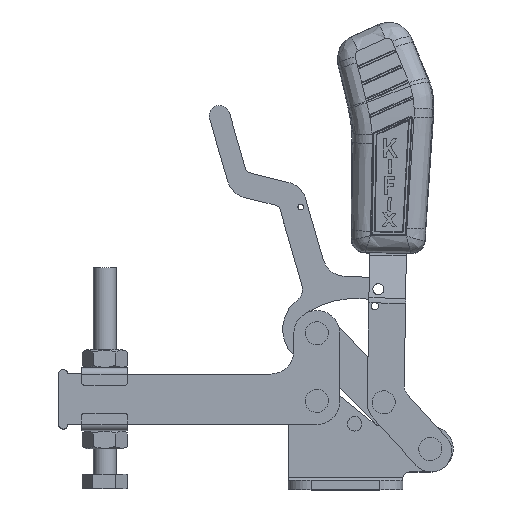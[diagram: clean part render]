
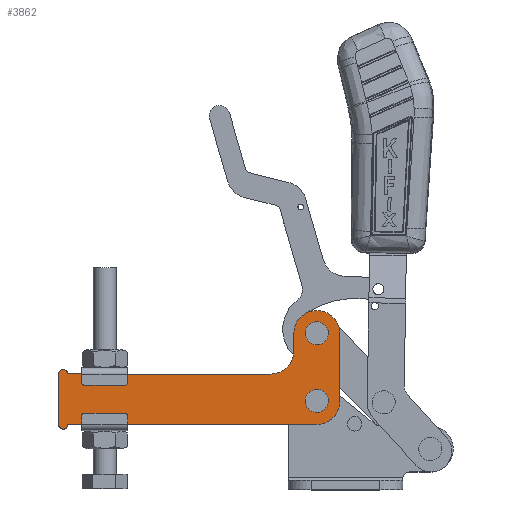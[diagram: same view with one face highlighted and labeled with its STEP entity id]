
A CAD part, top view. The second image highlights one B-rep face of the part: STEP entity #3862.
In plain terms, the highlighted planar face has unit normal (0, 0, 1).
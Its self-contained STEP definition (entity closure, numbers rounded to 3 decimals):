
#39 = CARTESIAN_POINT ( 'NONE',  ( 66., 28.7, 0. ) ) ;
#252 = ORIENTED_EDGE ( 'NONE', *, *, #21528, .F. ) ;
#426 = VERTEX_POINT ( 'NONE', #39 ) ;
#482 = DIRECTION ( 'NONE',  ( 0., 0., 1. ) ) ;
#818 = EDGE_CURVE ( 'NONE', #1227, #3880, #16589, .T. ) ;
#1037 = VERTEX_POINT ( 'NONE', #12869 ) ;
#1122 = CARTESIAN_POINT ( 'NONE',  ( 80., 28.7, 0. ) ) ;
#1227 = VERTEX_POINT ( 'NONE', #1122 ) ;
#1527 = CARTESIAN_POINT ( 'NONE',  ( -40.5, -11., 0. ) ) ;
#1542 = EDGE_CURVE ( 'NONE', #23721, #8501, #13813, .T. ) ;
#1905 = AXIS2_PLACEMENT_3D ( 'NONE', #23539, #11756, #25515 ) ;
#2504 = CARTESIAN_POINT ( 'NONE',  ( 50., 11., 0. ) ) ;
#2710 = VECTOR ( 'NONE', #9010, 1000. ) ;
#3114 = ORIENTED_EDGE ( 'NONE', *, *, #5938, .T. ) ;
#3231 = FACE_OUTER_BOUND ( 'NONE', #14770, .T. ) ;
#3372 = CARTESIAN_POINT ( 'NONE',  ( 70., -1., 0. ) ) ;
#3516 = DIRECTION ( 'NONE',  ( 1., 0., 0. ) ) ;
#3862 = ADVANCED_FACE ( 'NONE', ( #3884, #23628, #3231 ), #7011, .F. ) ;
#3880 = VERTEX_POINT ( 'NONE', #14926 ) ;
#3884 = FACE_BOUND ( 'NONE', #21962, .T. ) ;
#4378 = ORIENTED_EDGE ( 'NONE', *, *, #13256, .T. ) ;
#4645 = DIRECTION ( 'NONE',  ( 0., 0., -1. ) ) ;
#5122 = ORIENTED_EDGE ( 'NONE', *, *, #20548, .T. ) ;
#5140 = ORIENTED_EDGE ( 'NONE', *, *, #818, .T. ) ;
#5188 = AXIS2_PLACEMENT_3D ( 'NONE', #22780, #11004, #24783 ) ;
#5271 = ORIENTED_EDGE ( 'NONE', *, *, #7123, .T. ) ;
#5406 = DIRECTION ( 'NONE',  ( 1., 0., 0. ) ) ;
#5828 = CARTESIAN_POINT ( 'NONE',  ( 74., 28.7, 0. ) ) ;
#5938 = EDGE_CURVE ( 'NONE', #1037, #22275, #15533, .T. ) ;
#6425 = EDGE_CURVE ( 'NONE', #8501, #1037, #23214, .T. ) ;
#6542 = CARTESIAN_POINT ( 'NONE',  ( 66., -0.7, 0. ) ) ;
#7011 = PLANE ( 'NONE',  #12828 ) ;
#7033 = CARTESIAN_POINT ( 'NONE',  ( 80., -1., 0. ) ) ;
#7123 = EDGE_CURVE ( 'NONE', #13826, #23721, #9341, .T. ) ;
#7241 = CARTESIAN_POINT ( 'NONE',  ( 70., -11., 0. ) ) ;
#7389 = VERTEX_POINT ( 'NONE', #7241 ) ;
#7445 = AXIS2_PLACEMENT_3D ( 'NONE', #16452, #4645, #18451 ) ;
#7641 = CARTESIAN_POINT ( 'NONE',  ( -40.5, 11., 0. ) ) ;
#7967 = VERTEX_POINT ( 'NONE', #6542 ) ;
#8501 = VERTEX_POINT ( 'NONE', #14570 ) ;
#8646 = CIRCLE ( 'NONE', #15071, 10. ) ;
#8755 = ORIENTED_EDGE ( 'NONE', *, *, #22989, .F. ) ;
#9010 = DIRECTION ( 'NONE',  ( 0., 1., 0. ) ) ;
#9120 = CARTESIAN_POINT ( 'NONE',  ( 70., 28.7, 0. ) ) ;
#9168 = ORIENTED_EDGE ( 'NONE', *, *, #16842, .T. ) ;
#9273 = VECTOR ( 'NONE', #19562, 1000. ) ;
#9341 = CIRCLE ( 'NONE', #7445, 10. ) ;
#9454 = EDGE_CURVE ( 'NONE', #7389, #17387, #8646, .T. ) ;
#9621 = DIRECTION ( 'NONE',  ( -1., 0., 0. ) ) ;
#10111 = VERTEX_POINT ( 'NONE', #10825 ) ;
#10248 = VERTEX_POINT ( 'NONE', #13211 ) ;
#10405 = VERTEX_POINT ( 'NONE', #5828 ) ;
#10789 = ORIENTED_EDGE ( 'NONE', *, *, #1542, .T. ) ;
#10825 = CARTESIAN_POINT ( 'NONE',  ( 74., -0.7, 0. ) ) ;
#10983 = DIRECTION ( 'NONE',  ( 0., 0., -1. ) ) ;
#11004 = DIRECTION ( 'NONE',  ( 0., 0., 1. ) ) ;
#11110 = DIRECTION ( 'NONE',  ( 1., 0., 0. ) ) ;
#11321 = CARTESIAN_POINT ( 'NONE',  ( 4., -11., 0. ) ) ;
#11622 = AXIS2_PLACEMENT_3D ( 'NONE', #1527, #15336, #3516 ) ;
#11679 = VECTOR ( 'NONE', #13284, 1000. ) ;
#11756 = DIRECTION ( 'NONE',  ( 0., 0., 1. ) ) ;
#12329 = CARTESIAN_POINT ( 'NONE',  ( 70., -0.7, 0. ) ) ;
#12446 = DIRECTION ( 'NONE',  ( -1., 0., 0. ) ) ;
#12828 = AXIS2_PLACEMENT_3D ( 'NONE', #20709, #10983, #24758 ) ;
#12869 = CARTESIAN_POINT ( 'NONE',  ( -42.5, 11., 0. ) ) ;
#13211 = CARTESIAN_POINT ( 'NONE',  ( -38.5, -11., 0. ) ) ;
#13256 = EDGE_CURVE ( 'NONE', #10248, #7389, #20884, .T. ) ;
#13284 = DIRECTION ( 'NONE',  ( 1., 0., 0. ) ) ;
#13813 = LINE ( 'NONE', #2504, #23704 ) ;
#13826 = VERTEX_POINT ( 'NONE', #15404 ) ;
#14056 = ORIENTED_EDGE ( 'NONE', *, *, #9454, .T. ) ;
#14173 = AXIS2_PLACEMENT_3D ( 'NONE', #7641, #21434, #9621 ) ;
#14285 = DIRECTION ( 'NONE',  ( 1., 0., 0. ) ) ;
#14570 = CARTESIAN_POINT ( 'NONE',  ( -38.5, 11., 0. ) ) ;
#14731 = EDGE_LOOP ( 'NONE', ( #19150, #8755 ) ) ;
#14743 = CARTESIAN_POINT ( 'NONE',  ( 70., 28.7, 0. ) ) ;
#14770 = EDGE_LOOP ( 'NONE', ( #21690, #3114, #9168, #4378, #14056, #5122, #5140, #15524, #5271, #10789 ) ) ;
#14926 = CARTESIAN_POINT ( 'NONE',  ( 60., 28.7, 0. ) ) ;
#14929 = DIRECTION ( 'NONE',  ( 0., 0., 1. ) ) ;
#15071 = AXIS2_PLACEMENT_3D ( 'NONE', #3372, #17187, #5406 ) ;
#15336 = DIRECTION ( 'NONE',  ( 0., 0., 1. ) ) ;
#15404 = CARTESIAN_POINT ( 'NONE',  ( 60., 21., 0. ) ) ;
#15451 = AXIS2_PLACEMENT_3D ( 'NONE', #12329, #482, #14285 ) ;
#15524 = ORIENTED_EDGE ( 'NONE', *, *, #18788, .T. ) ;
#15533 = LINE ( 'NONE', #16688, #21416 ) ;
#15649 = CIRCLE ( 'NONE', #23755, 4. ) ;
#16452 = CARTESIAN_POINT ( 'NONE',  ( 50., 21., 0. ) ) ;
#16589 = CIRCLE ( 'NONE', #24021, 10. ) ;
#16688 = CARTESIAN_POINT ( 'NONE',  ( -42.5, 11., 0. ) ) ;
#16842 = EDGE_CURVE ( 'NONE', #22275, #10248, #19228, .T. ) ;
#17187 = DIRECTION ( 'NONE',  ( 0., 0., 1. ) ) ;
#17387 = VERTEX_POINT ( 'NONE', #23234 ) ;
#17961 = ORIENTED_EDGE ( 'NONE', *, *, #23751, .F. ) ;
#18451 = DIRECTION ( 'NONE',  ( -1., 0., 0. ) ) ;
#18475 = CIRCLE ( 'NONE', #5188, 4. ) ;
#18788 = EDGE_CURVE ( 'NONE', #3880, #13826, #20381, .T. ) ;
#19150 = ORIENTED_EDGE ( 'NONE', *, *, #20541, .F. ) ;
#19228 = CIRCLE ( 'NONE', #11622, 2. ) ;
#19562 = DIRECTION ( 'NONE',  ( 0., -1., 0. ) ) ;
#19733 = LINE ( 'NONE', #7033, #2710 ) ;
#20005 = CIRCLE ( 'NONE', #1905, 4. ) ;
#20381 = LINE ( 'NONE', #23509, #9273 ) ;
#20541 = EDGE_CURVE ( 'NONE', #10405, #426, #18475, .T. ) ;
#20548 = EDGE_CURVE ( 'NONE', #17387, #1227, #19733, .T. ) ;
#20659 = DIRECTION ( 'NONE',  ( 0., -1., 0. ) ) ;
#20709 = CARTESIAN_POINT ( 'NONE',  ( 2., 11., 0. ) ) ;
#20871 = CIRCLE ( 'NONE', #15451, 4. ) ;
#20884 = LINE ( 'NONE', #11321, #11679 ) ;
#21416 = VECTOR ( 'NONE', #20659, 1000. ) ;
#21434 = DIRECTION ( 'NONE',  ( 0., 0., 1. ) ) ;
#21528 = EDGE_CURVE ( 'NONE', #7967, #10111, #20005, .T. ) ;
#21690 = ORIENTED_EDGE ( 'NONE', *, *, #6425, .T. ) ;
#21962 = EDGE_LOOP ( 'NONE', ( #17961, #252 ) ) ;
#22074 = CARTESIAN_POINT ( 'NONE',  ( 50., 11., 0. ) ) ;
#22275 = VERTEX_POINT ( 'NONE', #22955 ) ;
#22600 = DIRECTION ( 'NONE',  ( 1., 0., 0. ) ) ;
#22780 = CARTESIAN_POINT ( 'NONE',  ( 70., 28.7, 0. ) ) ;
#22893 = DIRECTION ( 'NONE',  ( 0., 0., 1. ) ) ;
#22955 = CARTESIAN_POINT ( 'NONE',  ( -42.5, -11., 0. ) ) ;
#22989 = EDGE_CURVE ( 'NONE', #426, #10405, #15649, .T. ) ;
#23214 = CIRCLE ( 'NONE', #14173, 2. ) ;
#23234 = CARTESIAN_POINT ( 'NONE',  ( 80., -1., 0. ) ) ;
#23509 = CARTESIAN_POINT ( 'NONE',  ( 60., 28.7, 0. ) ) ;
#23539 = CARTESIAN_POINT ( 'NONE',  ( 70., -0.7, 0. ) ) ;
#23628 = FACE_BOUND ( 'NONE', #14731, .T. ) ;
#23704 = VECTOR ( 'NONE', #12446, 1000. ) ;
#23721 = VERTEX_POINT ( 'NONE', #22074 ) ;
#23751 = EDGE_CURVE ( 'NONE', #10111, #7967, #20871, .T. ) ;
#23755 = AXIS2_PLACEMENT_3D ( 'NONE', #9120, #22893, #11110 ) ;
#24021 = AXIS2_PLACEMENT_3D ( 'NONE', #14743, #14929, #22600 ) ;
#24758 = DIRECTION ( 'NONE',  ( -1., 0., 0. ) ) ;
#24783 = DIRECTION ( 'NONE',  ( 1., 0., 0. ) ) ;
#25515 = DIRECTION ( 'NONE',  ( 1., 0., 0. ) ) ;
